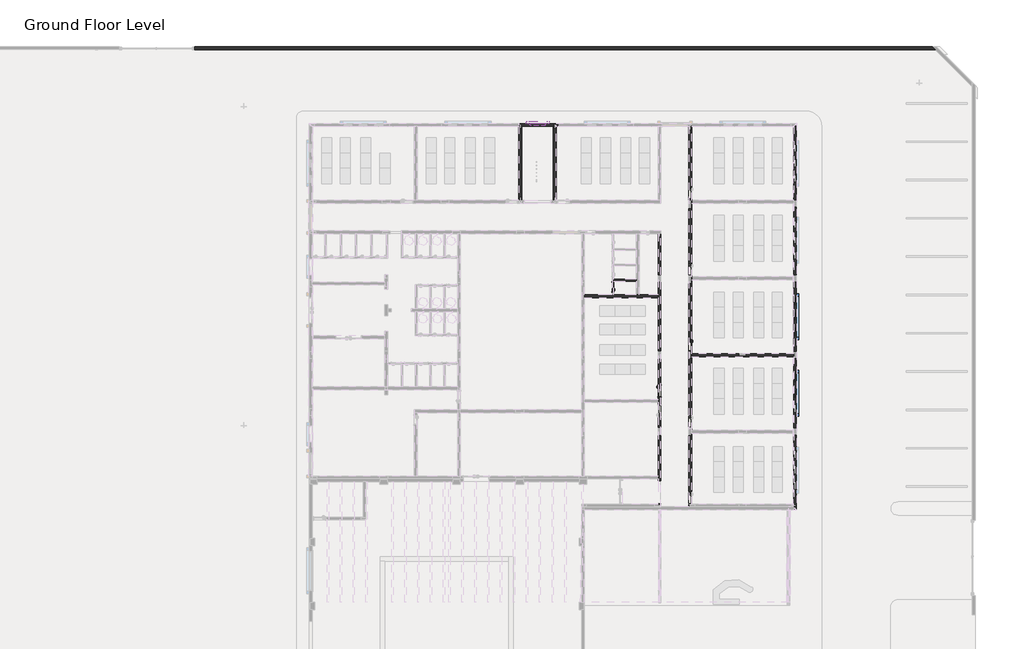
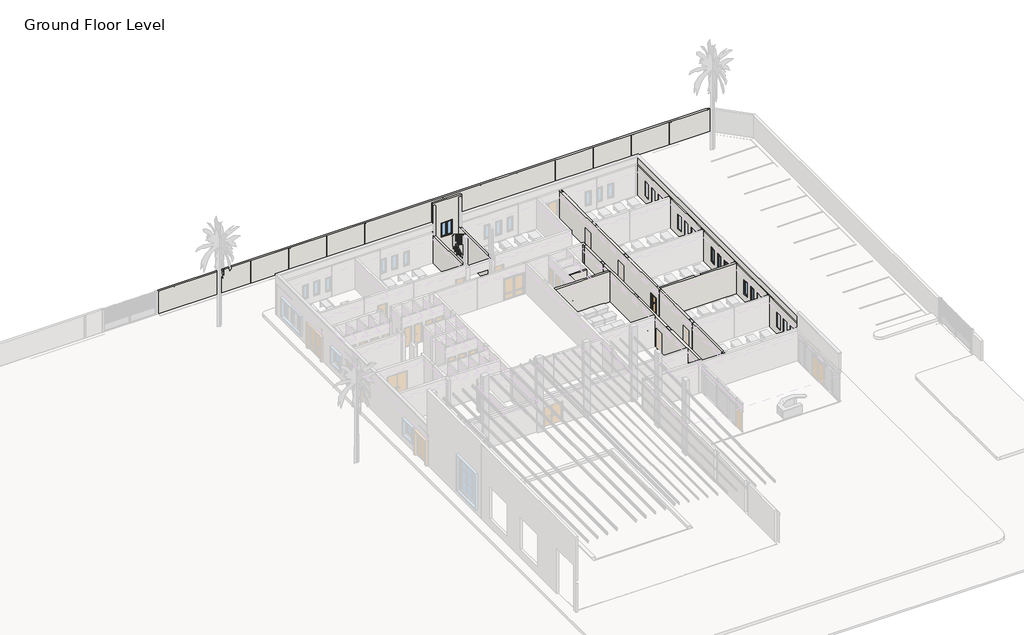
# One storey, part 9 of 23: 10 walls, 9 windows, 3 doors.
"""IFC4 building model written with IfcOpenShell, lengths in millimetres."""

from ifc_helpers import new_model, si_unit, frame, origin, place, context, project, spatial, polyline, outline, extrude, faceted_brep, transform, mapped, element, save
from components import int_single_flush_nz_700x_2100_e1d28701, int_single_flush_nz_900_x_2100_021ef152, int_single_flush_nz_900_x_2100_2a598139, awning_casement_double_w7_ecde4b56, window_batten_type_1_98129cd1, window_batten_type_1_65f01d97, window_single_shutter_w3_b236610e

model = new_model("IFC4")

# Units and contexts
model_context = context("Model", 3, world=origin())
ifc_project = project(units=[si_unit("LENGTHUNIT", "METRE", prefix="MILLI")], contexts=[model_context])

# Site, building, storey
site = spatial("IfcSite", under=ifc_project)
building = spatial("IfcBuilding", under=site)
storey = spatial("IfcBuildingStorey", under=building, Name="Ground Floor Level", Elevation=900.0)

# Doors
placement = place(None, origin())
int_single_flush_nz_700x_2100_shape = int_single_flush_nz_700x_2100_e1d28701(model_context)
element("IfcDoor", 1, ObjectType="Int Single-Flush (NZ) : 700x 2100", at=placement, inside=storey, context=model_context, shape_type="MappedRepresentation", body=[
    mapped(int_single_flush_nz_700x_2100_shape, transform((1702.7672395, 8941.2153534, 1000.0), x_axis=(0.0, 1.0, 0.0), y_axis=(-1.0, 0.0, 0.0), z_axis=(0.0, 0.0, 1.0))),
])
int_single_flush_nz_900_x_2100_shape = int_single_flush_nz_900_x_2100_021ef152(model_context)
element("IfcDoor", 2, ObjectType="Int Single-Flush (NZ) : 900 x 2100", at=placement, inside=storey, context=model_context, shape_type="MappedRepresentation", body=[
    mapped(int_single_flush_nz_900_x_2100_shape, transform((7752.7672395, 4239.2153534, 1000.0), x_axis=(0.0, -1.0, 0.0), y_axis=(1.0, 0.0, 0.0), z_axis=(0.0, 0.0, 1.0))),
])
int_single_flush_nz_900_x_2100_2_shape = int_single_flush_nz_900_x_2100_2a598139(model_context)
element("IfcDoor", 3, ObjectType="Int Single-Flush (NZ) : 900 x 2100", at=placement, inside=storey, context=model_context, shape_type="MappedRepresentation", body=[
    mapped(int_single_flush_nz_900_x_2100_2_shape, transform((5352.7672395, 649.2153534, 1000.0), x_axis=(0.0, -1.0, 0.0), y_axis=(1.0, 0.0, 0.0), z_axis=(0.0, 0.0, 1.0))),
])

# Walls
element("IfcWall", 4, ObjectType="Exterior - Blockwork 200 Stairs", at=placement, inside=storey, context=model_context, shape_type="Brep", body=[
    faceted_brep([(-5437.2327605, 21435.2153534, 4100.0), (-5437.2327605, 15655.2153534, 4100.0), (-5437.2327605, 15655.2153534, 1000.0), (-5437.2327605, 21435.2153534, 1000.0), (-5657.2327605, 15655.2153534, 4100.0), (-5657.2327605, 21435.2153534, 4100.0), (-5657.2327605, 21435.2153534, 1000.0), (-5657.2327605, 15655.2153534, 1000.0), (-5447.2327605, 15945.2153534, 900.0), (-5647.2327605, 15945.2153534, 900.0), (-5647.2327605, 21245.2153534, 900.0), (-5447.2327605, 21245.2153534, 900.0), (-5447.2327605, 21435.2153534, 4100.0), (-5447.2327605, 21245.2153534, 4100.0), (-5647.2327605, 21245.2153534, 4100.0), (-5647.2327605, 21435.2153534, 4100.0), (-5647.2327605, 15655.2153534, 4100.0), (-5647.2327605, 15945.2153534, 4100.0), (-5447.2327605, 15945.2153534, 4100.0), (-5447.2327605, 15655.2153534, 4100.0), (-5647.2327605, 15655.2153534, 1000.0), (-5647.2327605, 15945.2153534, 1000.0), (-5447.2327605, 15945.2153534, 1000.0), (-5447.2327605, 15655.2153534, 1000.0), (-5447.2327605, 21435.2153534, 1000.0), (-5447.2327605, 21245.2153534, 1000.0), (-5647.2327605, 21245.2153534, 1000.0), (-5647.2327605, 21435.2153534, 1000.0)], [[[0, 1, 2, 3]], [[4, 5, 6, 7]], [[8, 9, 10, 11]], [[1, 0, 12, 13, 14, 15, 5, 4, 16, 17, 18, 19]], [[20, 21, 17, 16]], [[9, 8, 22, 18, 17, 21]], [[19, 18, 22, 23]], [[13, 12, 24, 25]], [[11, 10, 26, 14, 13, 25]], [[26, 27, 15, 14]], [[27, 6, 5, 15]], [[12, 0, 3, 24]], [[16, 4, 7, 20]], [[1, 19, 23, 2]], [[26, 21, 20, 7, 6, 27]], [[21, 26, 10, 9]], [[22, 25, 24, 3, 2, 23]], [[25, 22, 8, 11]]]),
])
element("IfcWall", 5, ObjectType="Exterior - Blockwork 200 Stairs", at=placement, inside=storey, context=model_context, shape_type="Brep", body=[
    faceted_brep([(-2737.2327605, 15655.2153534, 900.0), (-2737.2327605, 21435.2153534, 900.0), (-2737.2327605, 21435.2153534, 4100.0), (-2737.2327605, 15655.2153534, 4100.0), (-2957.2327605, 21435.2153534, 900.0), (-2957.2327605, 15655.2153534, 900.0), (-2957.2327605, 15655.2153534, 4100.0), (-2957.2327605, 21435.2153534, 4100.0), (-2747.2327605, 15655.2153534, 900.0), (-2747.2327605, 15945.2153534, 900.0), (-2947.2327605, 15945.2153534, 900.0), (-2947.2327605, 15655.2153534, 900.0), (-2947.2327605, 21435.2153534, 900.0), (-2947.2327605, 21245.2153534, 900.0), (-2747.2327605, 21245.2153534, 900.0), (-2747.2327605, 21435.2153534, 900.0), (-2747.2327605, 21435.2153534, 4100.0), (-2747.2327605, 21245.2153534, 4100.0), (-2947.2327605, 21245.2153534, 4100.0), (-2947.2327605, 21435.2153534, 4100.0), (-2947.2327605, 15655.2153534, 4100.0), (-2947.2327605, 15945.2153534, 4100.0), (-2747.2327605, 15945.2153534, 4100.0), (-2747.2327605, 15655.2153534, 4100.0), (-2747.2327605, 21435.2153534, 1000.0), (-2947.2327605, 21435.2153534, 1000.0), (-2747.2327605, 15655.2153534, 1000.0), (-2947.2327605, 15655.2153534, 1000.0)], [[[0, 1, 2, 3]], [[4, 5, 6, 7]], [[1, 0, 8, 9, 10, 11, 5, 4, 12, 13, 14, 15]], [[3, 2, 16, 17, 18, 19, 7, 6, 20, 21, 22, 23]], [[2, 1, 15, 24, 16]], [[4, 7, 19, 25, 12]], [[0, 3, 23, 26, 8]], [[6, 5, 11, 27, 20]], [[10, 21, 20, 27, 11]], [[21, 10, 9, 22]], [[22, 9, 8, 26, 23]], [[14, 17, 16, 24, 15]], [[17, 14, 13, 18]], [[18, 13, 12, 25, 19]]]),
])
element("IfcWall", 6, ObjectType="Exterior - Blockwork 200mm", at=placement, inside=storey, context=model_context, shape_type="Brep", body=[
    faceted_brep([(15842.7672395, -8344.7846466, 5302.8002678), (15842.7672395, 21435.2153534, 5302.8002678), (15842.7672395, 21435.2153534, 4550.0), (15842.7672395, -8344.7846466, 4550.0), (15842.7672395, -8334.7846466, 4400.0), (15842.7672395, -8334.7846466, 900.0), (15842.7672395, -8344.7846466, 900.0), (15842.7672395, -8354.7846466, 900.0), (15842.7672395, -8354.7846466, 4400.0), (15842.7672395, -8344.7846466, 4400.0), (15842.7672395, -8134.7846466, 4400.0), (15842.7672395, -8124.7846466, 4400.0), (15842.7672395, -2564.7846466, 4400.0), (15842.7672395, -2344.7846466, 4400.0), (15842.7672395, 3425.2153534, 4400.0), (15842.7672395, 3645.2153534, 4400.0), (15842.7672395, 9435.2153534, 4400.0), (15842.7672395, 9655.2153534, 4400.0), (15842.7672395, 15435.2153534, 4400.0), (15842.7672395, 15655.2153534, 4400.0), (15842.7672395, 21435.2153534, 4400.0), (15842.7672395, 21435.2153534, 1000.0), (15842.7672395, 15655.2153534, 1000.0), (15842.7672395, 15655.2153534, 900.0), (15842.7672395, 15445.2153534, 900.0), (15842.7672395, 15445.2153534, 1000.0), (15842.7672395, 15435.2153534, 1000.0), (15842.7672395, 9655.2153534, 1000.0), (15842.7672395, 9655.2153534, 900.0), (15842.7672395, 9445.2153534, 900.0), (15842.7672395, 9445.2153534, 1000.0), (15842.7672395, 9435.2153534, 1000.0), (15842.7672395, 3645.2153534, 1000.0), (15842.7672395, 3645.2153534, 900.0), (15842.7672395, 3435.2153534, 900.0), (15842.7672395, 3435.2153534, 1000.0), (15842.7672395, 3425.2153534, 1000.0), (15842.7672395, -2344.7846466, 1000.0), (15842.7672395, -2344.7846466, 900.0), (15842.7672395, -2554.7846466, 900.0), (15842.7672395, -2554.7846466, 1000.0), (15842.7672395, -2564.7846466, 1000.0), (15842.7672395, -8124.7846466, 1000.0), (15842.7672395, -8134.7846466, 1000.0), (15842.7672395, 20035.2153534, 1800.0), (15842.7672395, 20035.2153534, 3400.0), (15842.7672395, 19435.2153534, 3400.0), (15842.7672395, 19435.2153534, 1800.0), (15842.7672395, 18855.2153534, 1800.0), (15842.7672395, 18855.2153534, 3400.0), (15842.7672395, 18255.2153534, 3400.0), (15842.7672395, 18255.2153534, 1800.0), (15842.7672395, 17655.2153534, 1800.0), (15842.7672395, 17655.2153534, 3400.0), (15842.7672395, 17055.2153534, 3400.0), (15842.7672395, 17055.2153534, 1800.0), (15842.7672395, 14055.2153534, 1800.0), (15842.7672395, 14055.2153534, 3400.0), (15842.7672395, 13455.2153534, 3400.0), (15842.7672395, 13455.2153534, 1800.0), (15842.7672395, 12835.2153534, 1800.0), (15842.7672395, 12835.2153534, 3400.0), (15842.7672395, 12235.2153534, 3400.0), (15842.7672395, 12235.2153534, 1800.0), (15842.7672395, 11635.2153534, 1800.0), (15842.7672395, 11635.2153534, 3400.0), (15842.7672395, 11035.2153534, 3400.0), (15842.7672395, 11035.2153534, 1800.0), (15842.7672395, 8035.2153534, 1800.0), (15842.7672395, 8035.2153534, 3400.0), (15842.7672395, 7435.2153534, 3400.0), (15842.7672395, 7435.2153534, 1800.0), (15842.7672395, 6855.2153534, 1800.0), (15842.7672395, 6855.2153534, 3400.0), (15842.7672395, 6255.2153534, 3400.0), (15842.7672395, 6255.2153534, 1800.0), (15842.7672395, 5635.2153534, 1800.0), (15842.7672395, 5635.2153534, 3400.0), (15842.7672395, 5035.2153534, 3400.0), (15842.7672395, 5035.2153534, 1800.0), (15842.7672395, 2045.2153534, 1800.0), (15842.7672395, 2045.2153534, 3400.0), (15842.7672395, 1445.2153534, 3400.0), (15842.7672395, 1445.2153534, 1800.0), (15842.7672395, 845.2153534, 1800.0), (15842.7672395, 845.2153534, 3400.0), (15842.7672395, 245.2153534, 3400.0), (15842.7672395, 245.2153534, 1800.0), (15842.7672395, -354.7846466, 1800.0), (15842.7672395, -354.7846466, 3400.0), (15842.7672395, -954.7846466, 3400.0), (15842.7672395, -954.7846466, 1800.0), (15842.7672395, -3944.7846466, 1800.0), (15842.7672395, -3944.7846466, 3400.0), (15842.7672395, -4544.7846466, 3400.0), (15842.7672395, -4544.7846466, 1800.0), (15842.7672395, -5144.7846466, 1800.0), (15842.7672395, -5144.7846466, 3400.0), (15842.7672395, -5744.7846466, 3400.0), (15842.7672395, -5744.7846466, 1800.0), (15842.7672395, -6364.7846466, 1800.0), (15842.7672395, -6364.7846466, 3400.0), (15842.7672395, -6964.7846466, 3400.0), (15842.7672395, -6964.7846466, 1800.0), (15842.7672395, -8564.7846466, 900.0), (15842.7672395, -8564.7846466, 4400.0), (15842.7672395, -8554.7846466, 4400.0), (15842.7672395, -8554.7846466, 900.0), (16062.7672395, -8564.7846466, 900.0), (16062.7672395, 21435.2153534, 900.0), (16062.7672395, 21435.2153534, 5302.8002678), (16062.7672395, -8344.7846466, 5302.8002678), (16062.7672395, -8344.7846466, 4400.0), (16062.7672395, -8564.7846466, 4400.0), (16062.7672395, 20035.2153534, 3400.0), (16062.7672395, 20035.2153534, 1800.0), (16062.7672395, 19435.2153534, 1800.0), (16062.7672395, 19435.2153534, 3400.0), (16062.7672395, 18855.2153534, 3400.0), (16062.7672395, 18855.2153534, 1800.0), (16062.7672395, 18255.2153534, 1800.0), (16062.7672395, 18255.2153534, 3400.0), (16062.7672395, 17655.2153534, 3400.0), (16062.7672395, 17655.2153534, 1800.0), (16062.7672395, 17055.2153534, 1800.0), (16062.7672395, 17055.2153534, 3400.0), (16062.7672395, 14055.2153534, 3400.0), (16062.7672395, 14055.2153534, 1800.0), (16062.7672395, 13455.2153534, 1800.0), (16062.7672395, 13455.2153534, 3400.0), (16062.7672395, 12835.2153534, 3400.0), (16062.7672395, 12835.2153534, 1800.0), (16062.7672395, 12235.2153534, 1800.0), (16062.7672395, 12235.2153534, 3400.0), (16062.7672395, 11635.2153534, 3400.0), (16062.7672395, 11635.2153534, 1800.0), (16062.7672395, 11035.2153534, 1800.0), (16062.7672395, 11035.2153534, 3400.0), (16062.7672395, 8035.2153534, 3400.0), (16062.7672395, 8035.2153534, 1800.0), (16062.7672395, 7435.2153534, 1800.0), (16062.7672395, 7435.2153534, 3400.0), (16062.7672395, 6855.2153534, 3400.0), (16062.7672395, 6855.2153534, 1800.0), (16062.7672395, 6255.2153534, 1800.0), (16062.7672395, 6255.2153534, 3400.0), (16062.7672395, 5635.2153534, 3400.0), (16062.7672395, 5635.2153534, 1800.0), (16062.7672395, 5035.2153534, 1800.0), (16062.7672395, 5035.2153534, 3400.0), (16062.7672395, 2045.2153534, 3400.0), (16062.7672395, 2045.2153534, 1800.0), (16062.7672395, 1445.2153534, 1800.0), (16062.7672395, 1445.2153534, 3400.0), (16062.7672395, 845.2153534, 3400.0), (16062.7672395, 845.2153534, 1800.0), (16062.7672395, 245.2153534, 1800.0), (16062.7672395, 245.2153534, 3400.0), (16062.7672395, -354.7846466, 3400.0), (16062.7672395, -354.7846466, 1800.0), (16062.7672395, -954.7846466, 1800.0), (16062.7672395, -954.7846466, 3400.0), (16062.7672395, -3944.7846466, 3400.0), (16062.7672395, -3944.7846466, 1800.0), (16062.7672395, -4544.7846466, 1800.0), (16062.7672395, -4544.7846466, 3400.0), (16062.7672395, -5144.7846466, 3400.0), (16062.7672395, -5144.7846466, 1800.0), (16062.7672395, -5744.7846466, 1800.0), (16062.7672395, -5744.7846466, 3400.0), (16062.7672395, -6364.7846466, 3400.0), (16062.7672395, -6364.7846466, 1800.0), (16062.7672395, -6964.7846466, 1800.0), (16062.7672395, -6964.7846466, 3400.0), (15852.7672395, 21435.2153534, 900.0), (15852.7672395, 21435.2153534, 1000.0), (16052.7672395, 21435.2153534, 4400.0), (16052.7672395, 21435.2153534, 4550.0), (16052.7672395, 15145.2153534, 900.0), (16052.7672395, 15145.2153534, 4400.0), (16052.7672395, 9795.2153534, 4400.0), (16052.7672395, 9795.2153534, 900.0), (16052.7672395, 9295.2153534, 900.0), (16052.7672395, 9295.2153534, 4400.0), (16052.7672395, 3795.2153534, 4400.0), (16052.7672395, 3795.2153534, 900.0), (16052.7672395, 3295.2153534, 900.0), (16052.7672395, 3295.2153534, 4400.0), (16052.7672395, -2204.7846466, 4400.0), (16052.7672395, -2204.7846466, 900.0), (16052.7672395, -2704.7846466, 900.0), (16052.7672395, -2704.7846466, 4400.0), (16052.7672395, -8134.7846466, 4400.0), (16052.7672395, -8134.7846466, 900.0), (16052.7672395, -8334.7846466, 900.0), (16052.7672395, -8334.7846466, 4400.0), (16052.7672395, -8344.7846466, 4400.0), (16052.7672395, -8344.7846466, 4550.0), (16052.7672395, 15645.2153534, 4400.0), (16052.7672395, 15645.2153534, 900.0), (15852.7672395, 15145.2153534, 900.0), (15852.7672395, 15145.2153534, 1000.0), (15852.7672395, 15145.2153534, 4400.0), (15852.7672395, 15645.2153534, 900.0), (15852.7672395, 15645.2153534, 4400.0), (15852.7672395, 15445.2153534, 1000.0), (15852.7672395, 15445.2153534, 900.0), (15852.7672395, 9295.2153534, 900.0), (15852.7672395, 9295.2153534, 1000.0), (15852.7672395, 9295.2153534, 4400.0), (15852.7672395, 9795.2153534, 4400.0), (15852.7672395, 9445.2153534, 1000.0), (15852.7672395, 9445.2153534, 900.0), (15852.7672395, 9655.2153534, 900.0), (15852.7672395, 9655.2153534, 1000.0), (15852.7672395, 9795.2153534, 1000.0), (15852.7672395, 9795.2153534, 900.0), (15852.7672395, 3795.2153534, 4400.0), (15852.7672395, 3295.2153534, 4400.0), (15852.7672395, 3295.2153534, 1000.0), (15852.7672395, 3435.2153534, 1000.0), (15852.7672395, 3435.2153534, 900.0), (15852.7672395, 3645.2153534, 900.0), (15852.7672395, 3645.2153534, 1000.0), (15852.7672395, 3795.2153534, 1000.0), (15852.7672395, 3795.2153534, 900.0), (15852.7672395, 3295.2153534, 900.0), (15852.7672395, -2204.7846466, 4400.0), (15852.7672395, -2704.7846466, 4400.0), (15852.7672395, -2704.7846466, 1000.0), (15852.7672395, -2554.7846466, 1000.0), (15852.7672395, -2554.7846466, 900.0), (15852.7672395, -2344.7846466, 900.0), (15852.7672395, -2344.7846466, 1000.0), (15852.7672395, -2204.7846466, 1000.0), (15852.7672395, -2204.7846466, 900.0), (15852.7672395, -2704.7846466, 900.0), (15852.7672395, -8134.7846466, 1000.0), (15852.7672395, -8134.7846466, 900.0), (16052.7672395, -8354.7846466, 900.0), (16052.7672395, -8354.7846466, 4400.0), (16052.7672395, -8554.7846466, 900.0), (16052.7672395, -8554.7846466, 4400.0), (15852.7672395, 15655.2153534, 1000.0), (15852.7672395, 15655.2153534, 900.0)], [[[0, 1, 2, 3]], [[4, 5, 6, 7, 8, 9]], [[10, 11, 12, 13, 14, 15, 16, 17, 18, 19, 20, 21, 22, 23, 24, 25, 26, 27, 28, 29, 30, 31, 32, 33, 34, 35, 36, 37, 38, 39, 40, 41, 42, 43], [44, 45, 46, 47], [48, 49, 50, 51], [52, 53, 54, 55], [56, 57, 58, 59], [60, 61, 62, 63], [64, 65, 66, 67], [68, 69, 70, 71], [72, 73, 74, 75], [76, 77, 78, 79], [80, 81, 82, 83], [84, 85, 86, 87], [88, 89, 90, 91], [92, 93, 94, 95], [96, 97, 98, 99], [100, 101, 102, 103]], [[104, 105, 106, 107]], [[108, 109, 110, 111, 112, 113], [114, 115, 116, 117], [118, 119, 120, 121], [122, 123, 124, 125], [126, 127, 128, 129], [130, 131, 132, 133], [134, 135, 136, 137], [138, 139, 140, 141], [142, 143, 144, 145], [146, 147, 148, 149], [150, 151, 152, 153], [154, 155, 156, 157], [158, 159, 160, 161], [162, 163, 164, 165], [166, 167, 168, 169], [170, 171, 172, 173]], [[110, 109, 174, 175, 21, 20, 176, 177, 2, 1]], [[178, 179, 180, 181, 182, 183, 184, 185, 186, 187, 188, 189, 190, 191, 192, 193, 194, 195, 196, 197, 177, 176, 198, 199]], [[179, 178, 200, 201, 202]], [[203, 204, 202, 201, 205, 206]], [[204, 203, 199, 198]], [[183, 182, 207, 208, 209]], [[210, 209, 208, 211, 212, 213, 214, 215]], [[181, 180, 210, 215, 216]], [[217, 218, 219, 220, 221, 222, 223, 224]], [[185, 184, 217, 224, 225]], [[187, 186, 226, 219, 218]], [[227, 228, 229, 230, 231, 232, 233, 234]], [[189, 188, 227, 234, 235]], [[191, 190, 236, 229, 228]], [[193, 192, 10, 43, 237, 238]], [[195, 194, 5, 4]], [[239, 240, 8, 7]], [[240, 239, 241, 242]], [[45, 44, 115, 114]], [[46, 45, 114, 117]], [[47, 46, 117, 116]], [[44, 47, 116, 115]], [[49, 48, 119, 118]], [[50, 49, 118, 121]], [[51, 50, 121, 120]], [[48, 51, 120, 119]], [[53, 52, 123, 122]], [[54, 53, 122, 125]], [[55, 54, 125, 124]], [[52, 55, 124, 123]], [[57, 56, 127, 126]], [[58, 57, 126, 129]], [[59, 58, 129, 128]], [[56, 59, 128, 127]], [[61, 60, 131, 130]], [[62, 61, 130, 133]], [[63, 62, 133, 132]], [[60, 63, 132, 131]], [[65, 64, 135, 134]], [[66, 65, 134, 137]], [[67, 66, 137, 136]], [[64, 67, 136, 135]], [[69, 68, 139, 138]], [[70, 69, 138, 141]], [[71, 70, 141, 140]], [[68, 71, 140, 139]], [[73, 72, 143, 142]], [[74, 73, 142, 145]], [[75, 74, 145, 144]], [[72, 75, 144, 143]], [[77, 76, 147, 146]], [[78, 77, 146, 149]], [[79, 78, 149, 148]], [[76, 79, 148, 147]], [[81, 80, 151, 150]], [[82, 81, 150, 153]], [[83, 82, 153, 152]], [[80, 83, 152, 151]], [[85, 84, 155, 154]], [[86, 85, 154, 157]], [[87, 86, 157, 156]], [[84, 87, 156, 155]], [[89, 88, 159, 158]], [[90, 89, 158, 161]], [[91, 90, 161, 160]], [[88, 91, 160, 159]], [[93, 92, 163, 162]], [[94, 93, 162, 165]], [[95, 94, 165, 164]], [[92, 95, 164, 163]], [[97, 96, 167, 166]], [[98, 97, 166, 169]], [[99, 98, 169, 168]], [[96, 99, 168, 167]], [[101, 100, 171, 170]], [[102, 101, 170, 173]], [[103, 102, 173, 172]], [[100, 103, 172, 171]], [[177, 197, 3, 2]], [[105, 104, 108, 113]], [[112, 111, 0, 3, 197, 196]], [[242, 241, 107, 106]], [[229, 237, 43, 42, 41, 40, 230]], [[230, 40, 39, 231]], [[237, 229, 236, 238]], [[219, 234, 233, 37, 36, 35, 220]], [[220, 35, 34, 221]], [[234, 219, 226, 235]], [[37, 233, 232, 38]], [[208, 224, 223, 32, 31, 30, 211]], [[211, 30, 29, 212]], [[224, 208, 207, 225]], [[32, 223, 222, 33]], [[201, 215, 214, 27, 26, 25, 205]], [[205, 25, 24, 206]], [[215, 201, 200, 216]], [[27, 214, 213, 28]], [[175, 243, 22, 21]], [[244, 243, 175, 174]], [[243, 244, 23, 22]], [[109, 108, 104, 107, 241, 239, 7, 6, 5, 194, 193, 238, 236, 190, 189, 235, 226, 186, 185, 225, 207, 182, 181, 216, 200, 178, 199, 203, 206, 24, 23, 244, 174]], [[39, 38, 232, 231]], [[34, 33, 222, 221]], [[29, 28, 213, 212]], [[1, 0, 111, 110]], [[180, 179, 202, 204, 198, 176, 20, 19, 18, 17, 16, 15, 14, 13, 12, 11, 10, 192, 191, 228, 227, 188, 187, 218, 217, 184, 183, 209, 210]], [[195, 4, 9, 8, 240, 242, 106, 105, 113, 112, 196]]]),
])
element("IfcWall", 7, ObjectType="Exterior - Blockwork 200mm", at=placement, inside=storey, context=model_context, shape_type="Brep", body=[
    faceted_brep([(-2637.2327605, 21435.2153534, 900.0), (-2637.2327605, 21435.2153534, 7598.0296693), (-5657.2327605, 21435.2153534, 7598.0296693), (-5657.2327605, 21435.2153534, 4400.0), (-5657.2327605, 21435.2153534, 4100.0), (-5657.2327605, 21435.2153534, 1000.0), (-5657.2327605, 21435.2153534, 900.0), (-5647.2327605, 21435.2153534, 900.0), (-5647.2327605, 21435.2153534, 1000.0), (-5647.2327605, 21435.2153534, 4100.0), (-5647.2327605, 21435.2153534, 7400.0), (-5447.2327605, 21435.2153534, 7400.0), (-5447.2327605, 21435.2153534, 4100.0), (-5447.2327605, 21435.2153534, 1000.0), (-5437.2327605, 21435.2153534, 1000.0), (-2947.2327605, 21435.2153534, 1000.0), (-2947.2327605, 21435.2153534, 4100.0), (-2947.2327605, 21435.2153534, 7400.0), (-2747.2327605, 21435.2153534, 7400.0), (-2747.2327605, 21435.2153534, 4100.0), (-2747.2327605, 21435.2153534, 1000.0), (-2737.2327605, 21435.2153534, 1000.0), (-2737.2327605, 21435.2153534, 900.0), (-4797.2327605, 21435.2153534, 3552.9147636), (-4797.2327605, 21435.2153534, 5152.9147636), (-3597.2327605, 21435.2153534, 5152.9147636), (-3597.2327605, 21435.2153534, 3552.9147636), (-2637.2327605, 21655.2153534, 900.0), (-5657.2327605, 21655.2153534, 900.0), (-5657.2327605, 21655.2153534, 7598.0296693), (-2637.2327605, 21655.2153534, 7598.0296693), (-4797.2327605, 21655.2153534, 5152.9147636), (-4797.2327605, 21655.2153534, 3552.9147636), (-3597.2327605, 21655.2153534, 3552.9147636), (-3597.2327605, 21655.2153534, 5152.9147636), (-2737.2327605, 21445.2153534, 900.0), (-2747.2327605, 21445.2153534, 900.0), (-2747.2327605, 21645.2153534, 900.0), (-2947.2327605, 21645.2153534, 900.0), (-2947.2327605, 21445.2153534, 900.0), (-5447.2327605, 21445.2153534, 900.0), (-5447.2327605, 21645.2153534, 900.0), (-5647.2327605, 21645.2153534, 900.0), (-5447.2327605, 21645.2153534, 7400.0), (-5447.2327605, 21445.2153534, 1000.0), (-5647.2327605, 21645.2153534, 7400.0), (-2947.2327605, 21645.2153534, 7400.0), (-2947.2327605, 21445.2153534, 1000.0), (-2747.2327605, 21645.2153534, 7400.0), (-2747.2327605, 21445.2153534, 1000.0), (-2737.2327605, 21445.2153534, 1000.0)], [[[0, 1, 2, 3, 4, 5, 6, 7, 8, 9, 10, 11, 12, 13, 14, 15, 16, 17, 18, 19, 20, 21, 22], [23, 24, 25, 26]], [[27, 28, 29, 30], [31, 32, 33, 34]], [[28, 27, 0, 22, 35, 36, 37, 38, 39, 40, 41, 42, 7, 6]], [[1, 0, 27, 30]], [[2, 1, 30, 29]], [[11, 43, 41, 40, 44, 13, 12]], [[43, 45, 42, 41]], [[45, 43, 11, 10]], [[38, 46, 17, 16, 15, 47, 39]], [[48, 46, 38, 37]], [[46, 48, 18, 17]], [[48, 37, 36, 49, 20, 19, 18]], [[45, 10, 9, 8, 7, 42]], [[24, 23, 32, 31]], [[25, 24, 31, 34]], [[26, 25, 34, 33]], [[23, 26, 33, 32]], [[44, 47, 15, 14, 13]], [[50, 21, 20, 49]], [[35, 50, 49, 36]], [[47, 44, 40, 39]], [[2, 29, 28, 6, 5, 4, 3]], [[50, 35, 22, 21]]]),
])
element("IfcWall", 8, ObjectType="Exterior - Blockwork 200mm", at=placement, inside=storey, context=model_context, shape_type="SweptSolid", body=[
    extrude(outline(polyline([(26941.6402558, 27445.2153534), (-31047.2327605, 27445.2153534), (-31047.2327605, 27665.2153534), (26721.6402558, 27665.2153534), (26941.6402558, 27445.2153534)])), frame((0.0, 0.0, 600.0), z_axis=(0.0, 0.0, 1.0), x_axis=(1.0, 0.0, 0.0)), (0.0, 0.0, 1.0), 2500.0),
])
element("IfcWall", 9, ObjectType="Interior - Blockwork 200", at=placement, inside=storey, context=model_context, shape_type="Brep", body=[
    faceted_brep([(5242.7672395, 13035.2153534, 4400.0), (5242.7672395, 13035.2153534, 900.0), (5242.7672395, 8255.2153534, 900.0), (5242.7672395, 8045.2153534, 900.0), (5242.7672395, 8045.2153534, 1000.0), (5242.7672395, 8035.2153534, 1000.0), (5242.7672395, 1193.2153534, 1000.0), (5242.7672395, 1193.2153534, 3119.0), (5242.7672395, 255.2153534, 3119.0), (5242.7672395, 255.2153534, 1000.0), (5242.7672395, 45.2153534, 1000.0), (5242.7672395, 45.2153534, 900.0), (5242.7672395, -154.7846466, 900.0), (5242.7672395, -154.7846466, 1000.0), (5242.7672395, -364.7846466, 1000.0), (5242.7672395, -364.7846466, 3119.0), (5242.7672395, -1302.7846466, 3119.0), (5242.7672395, -1302.7846466, 1000.0), (5242.7672395, -5944.7846466, 1000.0), (5242.7672395, -5954.7846466, 1000.0), (5242.7672395, -5954.7846466, 900.0), (5242.7672395, -6154.7846466, 900.0), (5242.7672395, -6154.7846466, 910.0), (5242.7672395, -6164.7846466, 910.0), (5242.7672395, -6289.7846466, 910.0), (5242.7672395, -6289.7846466, 3000.0), (5242.7672395, -8089.7846466, 3000.0), (5242.7672395, -8089.7846466, 910.0), (5242.7672395, -8134.7846466, 910.0), (5242.7672395, -8134.7846466, 4400.0), (5242.7672395, -6164.7846466, 4400.0), (5242.7672395, -5944.7846466, 4400.0), (5242.7672395, -164.7846466, 4400.0), (5242.7672395, 55.2153534, 4400.0), (5242.7672395, 8035.2153534, 4400.0), (5242.7672395, 8255.2153534, 4400.0), (5462.7672395, 13035.2153534, 4400.0), (5462.7672395, -8134.7846466, 4400.0), (5462.7672395, -8134.7846466, 1000.0), (5462.7672395, -8089.7846466, 1000.0), (5462.7672395, -8089.7846466, 3000.0), (5462.7672395, -6289.7846466, 3000.0), (5462.7672395, -6289.7846466, 1000.0), (5462.7672395, -1302.7846466, 1000.0), (5462.7672395, -1302.7846466, 3119.0), (5462.7672395, -364.7846466, 3119.0), (5462.7672395, -364.7846466, 1000.0), (5462.7672395, 255.2153534, 1000.0), (5462.7672395, 255.2153534, 3119.0), (5462.7672395, 1193.2153534, 3119.0), (5462.7672395, 1193.2153534, 1000.0), (5462.7672395, 13035.2153534, 1000.0), (5252.7672395, 12745.2153534, 900.0), (5452.7672395, 12745.2153534, 900.0), (5452.7672395, 9795.2153534, 900.0), (5252.7672395, 9795.2153534, 900.0), (5252.7672395, 9295.2153534, 900.0), (5452.7672395, 9295.2153534, 900.0), (5452.7672395, 3845.2153534, 900.0), (5252.7672395, 3845.2153534, 900.0), (5252.7672395, 8045.2153534, 900.0), (5252.7672395, 13035.2153534, 900.0), (5252.7672395, 3245.2153534, 900.0), (5452.7672395, 3245.2153534, 900.0), (5452.7672395, -2154.7846466, 900.0), (5252.7672395, -2154.7846466, 900.0), (5252.7672395, -154.7846466, 900.0), (5252.7672395, 45.2153534, 900.0), (5252.7672395, -2754.7846466, 900.0), (5452.7672395, -2754.7846466, 900.0), (5452.7672395, -6154.7846466, 900.0), (5252.7672395, -5954.7846466, 900.0), (5252.7672395, 13035.2153534, 4400.0), (5452.7672395, 13035.2153534, 4400.0), (5452.7672395, 13035.2153534, 1000.0), (5452.7672395, 12745.2153534, 4400.0), (5452.7672395, 12745.2153534, 1000.0), (5252.7672395, 12745.2153534, 4400.0), (5452.7672395, 9295.2153534, 4400.0), (5452.7672395, 9795.2153534, 4400.0), (5452.7672395, 9795.2153534, 1000.0), (5452.7672395, 9295.2153534, 1000.0), (5252.7672395, 9295.2153534, 4400.0), (5252.7672395, 9795.2153534, 4400.0), (5252.7672395, 3845.2153534, 4400.0), (5252.7672395, 3245.2153534, 4400.0), (5252.7672395, 3245.2153534, 1000.0), (5252.7672395, 3845.2153534, 1000.0), (5452.7672395, 3845.2153534, 1000.0), (5452.7672395, 3845.2153534, 4400.0), (5452.7672395, 3245.2153534, 4400.0), (5452.7672395, 3245.2153534, 1000.0), (5252.7672395, -2154.7846466, 4400.0), (5252.7672395, -2754.7846466, 4400.0), (5252.7672395, -2754.7846466, 1000.0), (5252.7672395, -2154.7846466, 1000.0), (5452.7672395, -2154.7846466, 1000.0), (5452.7672395, -2154.7846466, 4400.0), (5452.7672395, -2754.7846466, 4400.0), (5452.7672395, -2754.7846466, 1000.0), (5452.7672395, -8134.7846466, 4400.0), (5452.7672395, -1302.7846466, 1000.0), (5452.7672395, -6289.7846466, 1000.0), (5452.7672395, 1193.2153534, 1000.0), (5452.7672395, -8134.7846466, 1000.0), (5452.7672395, -8089.7846466, 1000.0), (5452.7672395, -364.7846466, 1000.0), (5452.7672395, 255.2153534, 1000.0), (5452.7672395, -6289.7846466, 910.0), (5452.7672395, -6154.7846466, 910.0), (5452.7672395, -8134.7846466, 910.0), (5452.7672395, -8089.7846466, 910.0), (5252.7672395, 8045.2153534, 1000.0), (5252.7672395, 1193.2153534, 1000.0), (5252.7672395, 45.2153534, 1000.0), (5252.7672395, 255.2153534, 1000.0), (5252.7672395, -154.7846466, 1000.0), (5252.7672395, -364.7846466, 1000.0), (5252.7672395, -5954.7846466, 1000.0), (5252.7672395, -1302.7846466, 1000.0)], [[[0, 1, 2, 3, 4, 5, 6, 7, 8, 9, 10, 11, 12, 13, 14, 15, 16, 17, 18, 19, 20, 21, 22, 23, 24, 25, 26, 27, 28, 29, 30, 31, 32, 33, 34, 35]], [[36, 37, 38, 39, 40, 41, 42, 43, 44, 45, 46, 47, 48, 49, 50, 51]], [[52, 53, 54, 55, 56, 57, 58, 59, 60, 3, 2, 1, 61]], [[62, 63, 64, 65, 66, 12, 11, 67]], [[68, 69, 70, 21, 20, 71]], [[1, 0, 72, 61]], [[73, 36, 51, 74]], [[75, 73, 74, 76]], [[52, 77, 75, 76, 53]], [[77, 52, 61, 72]], [[78, 79, 80, 81]], [[56, 82, 78, 81, 57]], [[82, 56, 55, 83]], [[83, 55, 54, 80, 79]], [[84, 85, 86, 87]], [[59, 58, 88, 89, 84, 87]], [[90, 89, 88, 91]], [[63, 62, 86, 85, 90, 91]], [[92, 93, 94, 95]], [[65, 64, 96, 97, 92, 95]], [[98, 97, 96, 99]], [[69, 68, 94, 93, 98, 99]], [[0, 35, 34, 33, 32, 31, 30, 29, 100, 37, 36, 73, 75, 77, 72], [93, 92, 97, 98], [85, 84, 89, 90], [79, 78, 82, 83]], [[99, 96, 101, 43, 42, 102]], [[80, 76, 74, 51, 50, 103, 91, 88, 81]], [[38, 104, 105, 39]], [[46, 106, 107, 47]], [[69, 99, 102, 108, 109, 70]], [[76, 80, 54, 53]], [[81, 88, 58, 57]], [[64, 63, 91, 103, 107, 106, 101, 96]], [[105, 104, 110, 111]], [[112, 87, 86, 113, 6, 5, 4]], [[114, 10, 9, 115]], [[67, 114, 115, 113, 86, 62]], [[112, 60, 59, 87]], [[114, 67, 11, 10]], [[60, 112, 4, 3]], [[13, 116, 117, 14]], [[94, 118, 19, 18, 17, 119, 95]], [[66, 116, 13, 12]], [[116, 66, 65, 95, 119, 117]], [[71, 118, 94, 68]], [[118, 71, 20, 19]], [[22, 109, 108, 24, 23]], [[28, 27, 111, 110]], [[109, 22, 21, 70]], [[37, 100, 29, 28, 110, 104, 38]], [[26, 40, 39, 105, 111, 27]], [[41, 25, 24, 108, 102, 42]], [[40, 26, 25, 41]], [[45, 15, 14, 117, 106, 46]], [[15, 45, 44, 16]], [[16, 44, 43, 101, 119, 17]], [[101, 106, 117, 119]], [[8, 48, 47, 107, 115, 9]], [[48, 8, 7, 49]], [[49, 7, 6, 113, 103, 50]], [[107, 103, 113, 115]]]),
])
element("IfcWall", 10, ObjectType="Interior - Blockwork 200", at=placement, inside=storey, context=model_context, shape_type="Brep", body=[
    faceted_brep([(5242.7672395, 8035.2153534, 4400.0), (-537.2327605, 8035.2153534, 4400.0), (-537.2327605, 8035.2153534, 1000.0), (5242.7672395, 8035.2153534, 1000.0), (5242.7672395, 8255.2153534, 4400.0), (5242.7672395, 8255.2153534, 900.0), (3762.7672395, 8255.2153534, 900.0), (3542.7672395, 8255.2153534, 900.0), (3542.7672395, 8255.2153534, 1000.0), (-537.2327605, 8255.2153534, 1000.0), (-537.2327605, 8255.2153534, 4400.0), (1642.7672395, 8255.2153534, 4400.0), (1762.7672395, 8255.2153534, 4400.0), (3542.7672395, 8255.2153534, 4400.0), (3762.7672395, 8255.2153534, 4400.0), (-537.2327605, 8245.2153534, 900.0), (3542.7672395, 8245.2153534, 900.0), (5242.7672395, 8045.2153534, 900.0), (-537.2327605, 8045.2153534, 900.0), (5242.7672395, 8045.2153534, 1000.0), (-537.2327605, 8245.2153534, 1000.0), (-537.2327605, 8045.2153534, 1000.0), (3542.7672395, 8245.2153534, 1000.0)], [[[0, 1, 2, 3]], [[4, 5, 6, 7, 8, 9, 10, 11, 12, 13, 14]], [[15, 16, 7, 6, 5, 17, 18]], [[5, 4, 0, 3, 19, 17]], [[1, 10, 9, 20, 15, 18, 21, 2]], [[1, 0, 4, 14, 13, 12, 11, 10]], [[22, 20, 9, 8]], [[22, 16, 15, 20]], [[21, 19, 3, 2]], [[19, 21, 18, 17]], [[16, 22, 8, 7]]]),
])
element("IfcWall", 11, ObjectType="Interior - Blockwork 200", at=placement, inside=storey, context=model_context, shape_type="Brep", body=[
    faceted_brep([(7642.7672395, -8344.7846466, 4400.0), (7642.7672395, 21435.2153534, 4400.0), (7642.7672395, 21435.2153534, 1000.0), (7642.7672395, 16693.2153534, 1000.0), (7642.7672395, 16693.2153534, 3119.0), (7642.7672395, 15755.2153534, 3119.0), (7642.7672395, 15755.2153534, 1000.0), (7642.7672395, 10693.2153534, 1000.0), (7642.7672395, 10693.2153534, 3119.0), (7642.7672395, 9755.2153534, 3119.0), (7642.7672395, 9755.2153534, 1000.0), (7642.7672395, 4783.2153534, 1000.0), (7642.7672395, 4783.2153534, 3119.0), (7642.7672395, 3845.2153534, 3119.0), (7642.7672395, 3845.2153534, 1000.0), (7642.7672395, -1206.7846466, 1000.0), (7642.7672395, -1206.7846466, 3119.0), (7642.7672395, -2144.7846466, 3119.0), (7642.7672395, -2144.7846466, 1000.0), (7642.7672395, -7186.7846466, 1000.0), (7642.7672395, -7186.7846466, 3119.0), (7642.7672395, -8124.7846466, 3119.0), (7642.7672395, -8124.7846466, 1000.0), (7642.7672395, -8344.7846466, 1000.0), (7862.7672395, -8334.7846466, 900.0), (7862.7672395, -8334.7846466, 4400.0), (7862.7672395, -8344.7846466, 4400.0), (7862.7672395, -8344.7846466, 900.0), (7862.7672395, -8134.7846466, 4400.0), (7862.7672395, -8134.7846466, 1000.0), (7862.7672395, -8124.7846466, 1000.0), (7862.7672395, -8124.7846466, 3119.0), (7862.7672395, -7186.7846466, 3119.0), (7862.7672395, -7186.7846466, 1000.0), (7862.7672395, -2564.7846466, 1000.0), (7862.7672395, -2554.7846466, 1000.0), (7862.7672395, -2554.7846466, 900.0), (7862.7672395, -2344.7846466, 900.0), (7862.7672395, -2344.7846466, 1000.0), (7862.7672395, -2144.7846466, 1000.0), (7862.7672395, -2144.7846466, 3119.0), (7862.7672395, -1206.7846466, 3119.0), (7862.7672395, -1206.7846466, 1000.0), (7862.7672395, 3425.2153534, 1000.0), (7862.7672395, 3435.2153534, 1000.0), (7862.7672395, 3435.2153534, 900.0), (7862.7672395, 3645.2153534, 900.0), (7862.7672395, 3645.2153534, 1000.0), (7862.7672395, 3845.2153534, 1000.0), (7862.7672395, 3845.2153534, 3119.0), (7862.7672395, 4783.2153534, 3119.0), (7862.7672395, 4783.2153534, 1000.0), (7862.7672395, 9435.2153534, 1000.0), (7862.7672395, 9445.2153534, 1000.0), (7862.7672395, 9445.2153534, 900.0), (7862.7672395, 9655.2153534, 900.0), (7862.7672395, 9655.2153534, 1000.0), (7862.7672395, 9755.2153534, 1000.0), (7862.7672395, 9755.2153534, 3119.0), (7862.7672395, 10693.2153534, 3119.0), (7862.7672395, 10693.2153534, 1000.0), (7862.7672395, 15435.2153534, 1000.0), (7862.7672395, 15445.2153534, 1000.0), (7862.7672395, 15445.2153534, 900.0), (7862.7672395, 15655.2153534, 900.0), (7862.7672395, 15655.2153534, 1000.0), (7862.7672395, 15755.2153534, 1000.0), (7862.7672395, 15755.2153534, 3119.0), (7862.7672395, 16693.2153534, 3119.0), (7862.7672395, 16693.2153534, 1000.0), (7862.7672395, 21435.2153534, 1000.0), (7862.7672395, 21435.2153534, 4400.0), (7862.7672395, 15655.2153534, 4400.0), (7862.7672395, 15435.2153534, 4400.0), (7862.7672395, 9655.2153534, 4400.0), (7862.7672395, 9435.2153534, 4400.0), (7862.7672395, 3645.2153534, 4400.0), (7862.7672395, 3425.2153534, 4400.0), (7862.7672395, -2344.7846466, 4400.0), (7862.7672395, -2564.7846466, 4400.0), (7862.7672395, -8124.7846466, 4400.0), (7652.7672395, 15045.2153534, 900.0), (7852.7672395, 15045.2153534, 900.0), (7852.7672395, 9745.2153534, 900.0), (7652.7672395, 9745.2153534, 900.0), (7852.7672395, 15645.2153534, 900.0), (7652.7672395, 15645.2153534, 900.0), (7652.7672395, 21145.2153534, 900.0), (7852.7672395, 21145.2153534, 900.0), (7852.7672395, 15655.2153534, 900.0), (7852.7672395, 15445.2153534, 900.0), (7652.7672395, 9145.2153534, 900.0), (7852.7672395, 9145.2153534, 900.0), (7852.7672395, 3845.2153534, 900.0), (7652.7672395, 3845.2153534, 900.0), (7652.7672395, 3245.2153534, 900.0), (7852.7672395, 3245.2153534, 900.0), (7852.7672395, -2154.7846466, 900.0), (7652.7672395, -2154.7846466, 900.0), (7652.7672395, -2754.7846466, 900.0), (7852.7672395, -2754.7846466, 900.0), (7852.7672395, -8134.7846466, 900.0), (7652.7672395, -8134.7846466, 900.0), (7652.7672395, -8334.7846466, 900.0), (7652.7672395, -8344.7846466, 900.0), (7852.7672395, -2554.7846466, 900.0), (7852.7672395, -2344.7846466, 900.0), (7852.7672395, 3435.2153534, 900.0), (7852.7672395, 3645.2153534, 900.0), (7852.7672395, 9445.2153534, 900.0), (7852.7672395, 9655.2153534, 900.0), (7652.7672395, 21435.2153534, 4400.0), (7652.7672395, 21435.2153534, 1000.0), (7852.7672395, 21435.2153534, 4400.0), (7852.7672395, 21435.2153534, 1000.0), (7852.7672395, 15645.2153534, 4400.0), (7852.7672395, 15445.2153534, 1000.0), (7852.7672395, 15045.2153534, 1000.0), (7852.7672395, 15045.2153534, 4400.0), (7652.7672395, 15045.2153534, 1000.0), (7652.7672395, 15045.2153534, 4400.0), (7652.7672395, 15645.2153534, 4400.0), (7652.7672395, 15645.2153534, 1000.0), (7852.7672395, 21145.2153534, 4400.0), (7852.7672395, 21145.2153534, 1000.0), (7652.7672395, 21145.2153534, 1000.0), (7652.7672395, 21145.2153534, 4400.0), (7652.7672395, 9745.2153534, 4400.0), (7652.7672395, 9145.2153534, 4400.0), (7652.7672395, 9145.2153534, 1000.0), (7652.7672395, 9745.2153534, 1000.0), (7852.7672395, 9745.2153534, 1000.0), (7852.7672395, 9745.2153534, 4400.0), (7852.7672395, 9145.2153534, 4400.0), (7852.7672395, 9655.2153534, 1000.0), (7852.7672395, 9445.2153534, 1000.0), (7852.7672395, 9145.2153534, 1000.0), (7652.7672395, 3845.2153534, 4400.0), (7652.7672395, 3245.2153534, 4400.0), (7652.7672395, 3245.2153534, 1000.0), (7652.7672395, 3845.2153534, 1000.0), (7652.7672395, 3845.2153534, 3119.0), (7852.7672395, 3845.2153534, 1000.0), (7652.7672395, 3845.2153534, 1000.0), (7852.7672395, 3845.2153534, 4400.0), (7852.7672395, 3845.2153534, 3119.0), (7852.7672395, 3245.2153534, 4400.0), (7852.7672395, 3845.2153534, 1000.0), (7852.7672395, 3645.2153534, 1000.0), (7852.7672395, 3435.2153534, 1000.0), (7852.7672395, 3245.2153534, 1000.0), (7652.7672395, -2154.7846466, 4400.0), (7652.7672395, -2754.7846466, 4400.0), (7652.7672395, -2754.7846466, 1000.0), (7652.7672395, -2154.7846466, 1000.0), (7852.7672395, -2154.7846466, 1000.0), (7852.7672395, -2154.7846466, 4400.0), (7852.7672395, -2754.7846466, 4400.0), (7852.7672395, -2344.7846466, 1000.0), (7852.7672395, -2554.7846466, 1000.0), (7852.7672395, -2754.7846466, 1000.0), (7652.7672395, -8134.7846466, 4400.0), (7652.7672395, -8134.7846466, 1000.0), (7852.7672395, -8134.7846466, 1000.0), (7652.7672395, -8334.7846466, 1000.0), (7652.7672395, -8334.7846466, 4400.0), (7652.7672395, -8344.7846466, 1000.0), (7852.7672395, -8124.7846466, 1000.0), (7852.7672395, -7186.7846466, 1000.0), (7852.7672395, -1206.7846466, 1000.0), (7852.7672395, -2144.7846466, 1000.0), (7852.7672395, 4783.2153534, 1000.0), (7852.7672395, 10693.2153534, 1000.0), (7852.7672395, 9755.2153534, 1000.0), (7852.7672395, 16693.2153534, 1000.0), (7852.7672395, 15655.2153534, 1000.0), (7852.7672395, 15755.2153534, 1000.0), (7652.7672395, 15755.2153534, 1000.0), (7652.7672395, 10693.2153534, 1000.0), (7652.7672395, 16693.2153534, 1000.0), (7652.7672395, 9755.2153534, 1000.0), (7652.7672395, 4783.2153534, 1000.0), (7652.7672395, -2144.7846466, 1000.0), (7652.7672395, -7186.7846466, 1000.0), (7652.7672395, -1206.7846466, 1000.0), (7652.7672395, -8124.7846466, 1000.0)], [[[0, 1, 2, 3, 4, 5, 6, 7, 8, 9, 10, 11, 12, 13, 14, 15, 16, 17, 18, 19, 20, 21, 22, 23]], [[24, 25, 26, 27]], [[28, 29, 30, 31, 32, 33, 34, 35, 36, 37, 38, 39, 40, 41, 42, 43, 44, 45, 46, 47, 48, 49, 50, 51, 52, 53, 54, 55, 56, 57, 58, 59, 60, 61, 62, 63, 64, 65, 66, 67, 68, 69, 70, 71, 72, 73, 74, 75, 76, 77, 78, 79, 80]], [[81, 82, 83, 84]], [[85, 86, 87, 88, 89, 64, 63, 90]], [[91, 92, 93, 94]], [[95, 96, 97, 98]], [[99, 100, 101, 102]], [[103, 24, 27, 104]], [[36, 105, 106, 37]], [[45, 107, 108, 46]], [[54, 109, 110, 55]], [[1, 111, 112, 2]], [[113, 71, 70, 114]], [[115, 85, 90, 116, 117, 118]], [[82, 81, 119, 120, 118, 117]], [[121, 120, 119, 122]], [[85, 115, 121, 122, 86]], [[123, 113, 114, 124]], [[88, 87, 125, 126, 123, 124]], [[111, 126, 125, 112]], [[127, 128, 129, 130]], [[84, 83, 131, 132, 127, 130]], [[133, 132, 131, 134, 110, 109, 135, 136]], [[92, 91, 129, 128, 133, 136]], [[137, 138, 139, 140, 141]], [[94, 93, 142, 143]], [[144, 137, 141, 145]], [[146, 144, 145, 147, 148, 108, 107, 149, 150]], [[96, 95, 139, 138, 146, 150]], [[151, 152, 153, 154]], [[98, 97, 155, 156, 151, 154]], [[157, 156, 155, 158, 106, 105, 159, 160]], [[100, 99, 153, 152, 157, 160]], [[28, 161, 162, 102, 101, 163, 29]], [[25, 24, 103, 164, 165]], [[161, 165, 164, 162]], [[27, 26, 0, 23, 166, 104]], [[1, 0, 26, 25, 165, 161, 28, 80, 79, 78, 77, 76, 75, 74, 73, 72, 71, 113, 123, 126, 111], [115, 118, 120, 121], [128, 127, 132, 133], [138, 137, 144, 146], [152, 151, 156, 157]], [[30, 29, 163, 167]], [[159, 35, 34, 33, 168, 160]], [[35, 159, 105, 36]], [[101, 100, 160, 168, 167, 163]], [[149, 44, 43, 42, 169, 150]], [[38, 158, 155, 170, 39]], [[44, 149, 107, 45]], [[158, 38, 37, 106]], [[97, 96, 150, 169, 170, 155]], [[135, 53, 52, 51, 171, 136]], [[47, 148, 147, 48]], [[53, 135, 109, 54]], [[148, 47, 46, 108]], [[93, 92, 136, 171, 142]], [[116, 62, 61, 60, 172, 117]], [[56, 134, 131, 173, 57]], [[62, 116, 90, 63]], [[134, 56, 55, 110]], [[83, 82, 117, 172, 173, 131]], [[70, 69, 174, 124, 114]], [[65, 175, 176, 66]], [[89, 175, 65, 64]], [[175, 89, 88, 124, 174, 176]], [[177, 122, 119, 178, 7, 6]], [[125, 179, 3, 2, 112]], [[180, 130, 129, 181, 11, 10]], [[182, 154, 153, 183, 19, 18]], [[139, 184, 15, 14, 140]], [[185, 162, 164, 166, 23, 22]], [[166, 164, 103, 104]], [[122, 177, 179, 125, 87, 86]], [[130, 180, 178, 119, 81, 84]], [[181, 129, 91, 94, 143]], [[154, 182, 184, 139, 95, 98]], [[162, 185, 183, 153, 99, 102]], [[6, 5, 67, 66, 176, 177]], [[4, 3, 179, 174, 69, 68]], [[176, 174, 179, 177]], [[10, 9, 58, 57, 173, 180]], [[8, 7, 178, 172, 60, 59]], [[173, 172, 178, 180]], [[14, 13, 141, 140]], [[49, 48, 147, 145]], [[12, 11, 181, 171, 51, 50]], [[143, 142, 171, 181]], [[18, 17, 40, 39, 170, 182]], [[16, 15, 184, 169, 42, 41]], [[170, 169, 184, 182]], [[22, 21, 31, 30, 167, 185]], [[20, 19, 183, 168, 33, 32]], [[167, 168, 183, 185]], [[4, 68, 67, 5]], [[8, 59, 58, 9]], [[12, 50, 49, 145, 141, 13]], [[16, 41, 40, 17]], [[20, 32, 31, 21]]]),
])
element("IfcWall", 12, ObjectType="Interior - Blockwork 200", at=placement, inside=storey, context=model_context, shape_type="Brep", body=[
    faceted_brep([(15842.7672395, 3645.2153534, 4400.0), (15842.7672395, 3645.2153534, 1000.0), (15842.7672395, 3645.2153534, 900.0), (12152.7672395, 3645.2153534, 900.0), (12152.7672395, 3645.2153534, 4400.0), (7862.7672395, 3645.2153534, 900.0), (7862.7672395, 3645.2153534, 1000.0), (7862.7672395, 3645.2153534, 4400.0), (11552.7672395, 3645.2153534, 4400.0), (11552.7672395, 3645.2153534, 900.0), (15842.7672395, 3425.2153534, 4400.0), (7862.7672395, 3425.2153534, 4400.0), (7862.7672395, 3425.2153534, 1000.0), (15842.7672395, 3425.2153534, 1000.0), (15842.7672395, 3435.2153534, 900.0), (7862.7672395, 3435.2153534, 900.0), (11552.7672395, 3445.2153534, 900.0), (12152.7672395, 3445.2153534, 900.0), (7862.7672395, 3435.2153534, 1000.0), (15842.7672395, 3435.2153534, 1000.0), (12152.7672395, 3445.2153534, 4400.0), (11552.7672395, 3445.2153534, 4400.0)], [[[0, 1, 2, 3, 4]], [[5, 6, 7, 8, 9]], [[10, 11, 12, 13]], [[3, 2, 14, 15, 5, 9, 16, 17]], [[7, 6, 5, 15, 18, 12, 11]], [[2, 1, 0, 10, 13, 19, 14]], [[17, 20, 4, 3]], [[20, 17, 16, 21]], [[21, 16, 9, 8]], [[7, 11, 10, 0, 4, 20, 21, 8]], [[18, 19, 13, 12]], [[19, 18, 15, 14]]]),
])
element("IfcWall", 13, ObjectType="Interior -Blockwork 100mm", at=placement, inside=storey, context=model_context, shape_type="SweptSolid", body=[
    extrude(outline(polyline([(3542.7672395, 9335.2153534), (1762.7672395, 9335.2153534), (1762.7672395, 9455.2153534), (3542.7672395, 9455.2153534), (3542.7672395, 9335.2153534)])), frame((0.0, 0.0, 900.0), z_axis=(0.0, 0.0, 1.0), x_axis=(1.0, 0.0, 0.0)), (0.0, 0.0, 1.0), 3500.0),
])

# Windows
awning_casement_double_w7_shape = awning_casement_double_w7_ecde4b56(model_context)
element("IfcWindow", 14, ObjectType="Awning Casement double : W7", at=placement, inside=storey, context=model_context, shape_type="MappedRepresentation", body=[
    mapped(awning_casement_double_w7_shape, transform((-4197.2327605, 21545.2153534, 2752.9147636), x_axis=(1.0, 0.0, 0.0), y_axis=(0.0, 1.0, 0.0), z_axis=(0.0, 0.0, 1.0))),
])
window_batten_type_1_shape = window_batten_type_1_98129cd1(model_context)
element("IfcWindow", 15, ObjectType="Window Batten : Type 1", at=placement, inside=storey, context=model_context, shape_type="MappedRepresentation", body=[
    mapped(window_batten_type_1_shape, transform((-4073.2317467, 21545.2153534, 2736.2741566), x_axis=(-1.0, 0.0, 0.0), y_axis=(0.0, -1.0, 0.0), z_axis=(0.0, 0.0, 1.0))),
])
window_batten_type_1_2_shape = window_batten_type_1_65f01d97(model_context)
element("IfcWindow", 16, ObjectType="Window Batten : Type 1", at=placement, inside=storey, context=model_context, shape_type="MappedRepresentation", body=[
    mapped(window_batten_type_1_2_shape, transform((15952.7672395, 411.3462452, 984.2726339), x_axis=(0.0, 1.0, 0.0), y_axis=(-1.0, 0.0, 0.0), z_axis=(0.0, 0.0, 1.0))),
])
element("IfcWindow", 17, ObjectType="Window Batten : Type 1", at=placement, inside=storey, context=model_context, shape_type="MappedRepresentation", body=[
    mapped(window_batten_type_1_2_shape, transform((15952.7672395, 6411.3462452, 984.2726339), x_axis=(0.0, 1.0, 0.0), y_axis=(-1.0, 0.0, 0.0), z_axis=(0.0, 0.0, 1.0))),
])
window_single_shutter_w3_shape = window_single_shutter_w3_b236610e(model_context)
element("IfcWindow", 18, ObjectType="Window- Single Shutter : W3", at=placement, inside=storey, context=model_context, shape_type="MappedRepresentation", body=[
    mapped(window_single_shutter_w3_shape, transform((15947.7672395, 7735.2153534, 1000.0), x_axis=(0.0, -1.0, 0.0), y_axis=(1.0, 0.0, 0.0), z_axis=(0.0, 0.0, 1.0))),
])
element("IfcWindow", 19, ObjectType="Window- Single Shutter : W3", at=placement, inside=storey, context=model_context, shape_type="MappedRepresentation", body=[
    mapped(window_single_shutter_w3_shape, transform((15947.7672395, 6555.2153534, 1000.0), x_axis=(0.0, -1.0, 0.0), y_axis=(1.0, 0.0, 0.0), z_axis=(0.0, 0.0, 1.0))),
])
element("IfcWindow", 20, ObjectType="Window- Single Shutter : W3", at=placement, inside=storey, context=model_context, shape_type="MappedRepresentation", body=[
    mapped(window_single_shutter_w3_shape, transform((15947.7672395, 5335.2153534, 1000.0), x_axis=(0.0, -1.0, 0.0), y_axis=(1.0, 0.0, 0.0), z_axis=(0.0, 0.0, 1.0))),
])
element("IfcWindow", 21, ObjectType="Window- Single Shutter : W3", at=placement, inside=storey, context=model_context, shape_type="MappedRepresentation", body=[
    mapped(window_single_shutter_w3_shape, transform((15947.7672395, 1745.2153534, 1000.0), x_axis=(0.0, -1.0, 0.0), y_axis=(1.0, 0.0, 0.0), z_axis=(0.0, 0.0, 1.0))),
])
element("IfcWindow", 22, ObjectType="Window- Single Shutter : W3", at=placement, inside=storey, context=model_context, shape_type="MappedRepresentation", body=[
    mapped(window_single_shutter_w3_shape, transform((15947.7672395, 545.2153534, 1000.0), x_axis=(0.0, -1.0, 0.0), y_axis=(1.0, 0.0, 0.0), z_axis=(0.0, 0.0, 1.0))),
])

save(model, "model.ifc")
